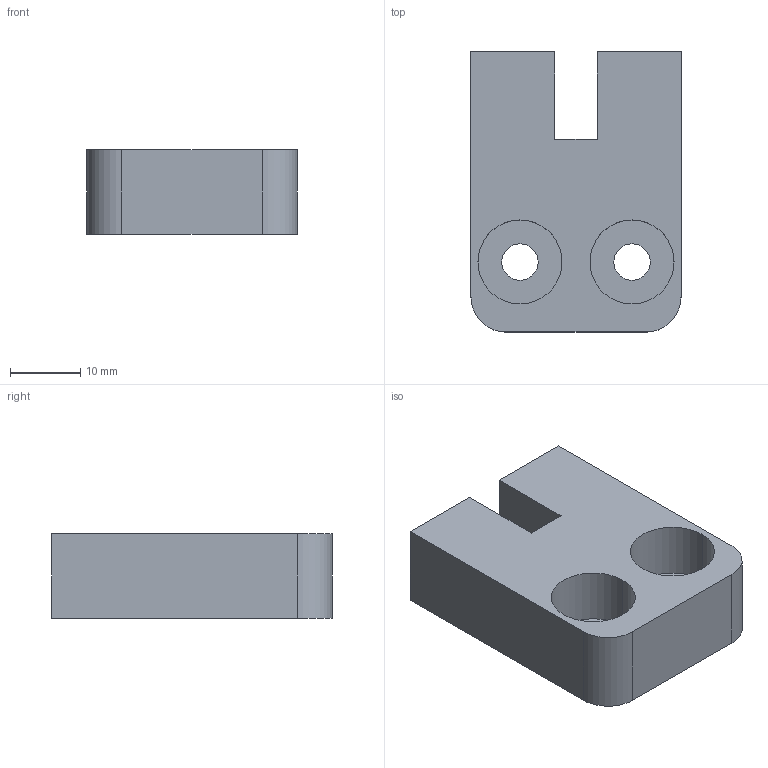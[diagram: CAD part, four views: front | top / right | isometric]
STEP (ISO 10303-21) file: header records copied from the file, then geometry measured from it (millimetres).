
FILE_DESCRIPTION((''),'2;1');
FILE_NAME('0000206486','2024-03-01T12:58:45',('Wyndorps'),(''),'CREO PARAMETRIC BY PTC INC, 2022484','CREO PARAMETRIC BY PTC INC, 2022484','');
FILE_SCHEMA(('CONFIG_CONTROL_DESIGN'));
Length unit declared in the file: millimetre
Products named in the file (1): 0000206486
Bounding box: 30 x 40 x 12 mm (x, y, z)
Volume: 11391.8 mm3; surface area: 4806 mm2
Topology: 1 solids, 1 shells, 22 faces, 54 edges, 36 vertices
Faces by surface type: plane 12, cylinder 10
Entity records: 704 total; most frequent: DIRECTION 118, CARTESIAN_POINT 112, ORIENTED_EDGE 108, EDGE_CURVE 54, AXIS2_PLACEMENT_3D 42, VERTEX_POINT 36, VECTOR 34, LINE 34
